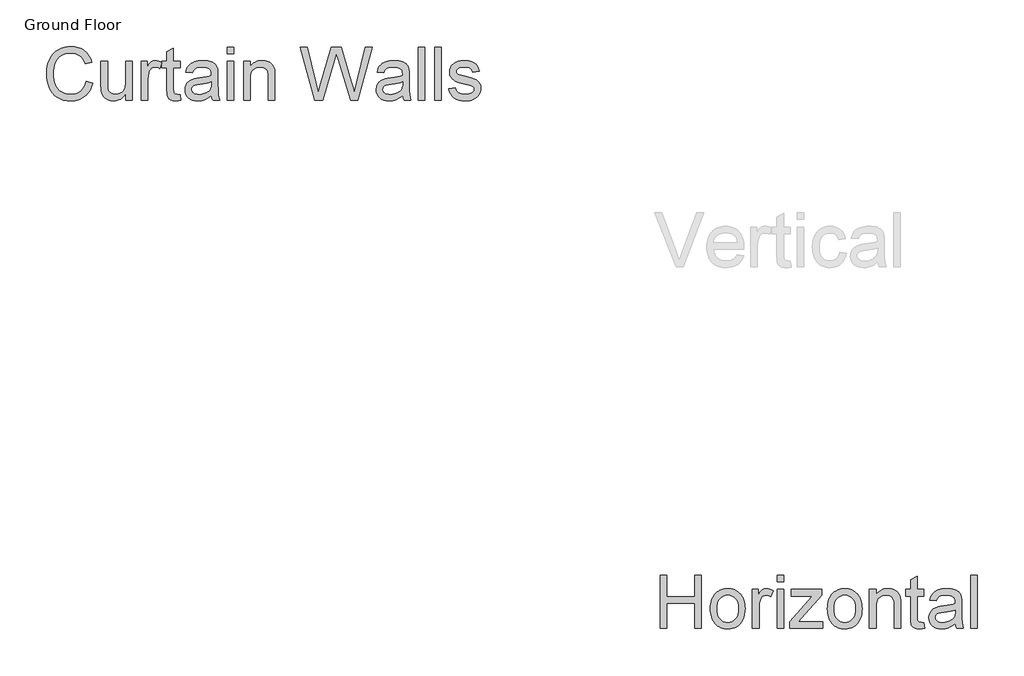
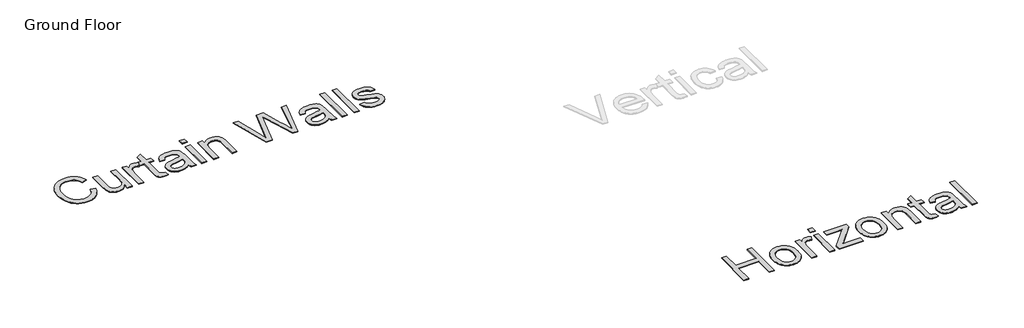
# One storey, part 3 of 6: 2 proxies.
"""IFC4 building model written with IfcOpenShell, lengths in millimetres."""

import ifcopenshell
import ifcopenshell.guid

model = None  # the IFC model being written
_history = None  # IfcOwnerHistory: only IFC2X3 demands one
_inside = {}  # id of a spatial element -> (the spatial element, [elements in it])
_under = {}  # id of a project, library or spatial element -> (it, [spatial elements below it])
_declared = {}  # id of a project -> (the project, [libraries it declares])
_typed = {}  # id of a type object -> (the type object, [elements of that type])
_made_of = {}  # id of a material, layer set ... -> (it, [elements and type objects made of it])


def new_model(schema):
    """Start an empty IFC model of exactly this schema.

    Asked for "IFC4X3", IfcOpenShell would pick the latest addendum, in which some entities
    have other attributes; the version numbers below select the first issue.
    IFC2X3 requires an IfcOwnerHistory on every rooted entity: one is made here for all.
    """
    global model, _history
    if schema == "IFC4X3":
        model = ifcopenshell.file(schema_version=(4, 3, 0, 0))
    else:
        model = ifcopenshell.file(schema=schema)
    _inside.clear()
    _under.clear()
    _declared.clear()
    _typed.clear()
    _made_of.clear()
    _history = None
    if model.schema == "IFC2X3":
        org = make("IfcOrganization", Name="unknown")
        user = make(
            "IfcPersonAndOrganization",
            ThePerson=make("IfcPerson", FamilyName="unknown"),
            TheOrganization=org,
        )
        app = make(
            "IfcApplication",
            ApplicationDeveloper=org,
            Version="unknown",
            ApplicationFullName="unknown",
            ApplicationIdentifier="unknown",
        )
        _history = make(
            "IfcOwnerHistory",
            OwningUser=user,
            OwningApplication=app,
            ChangeAction="ADDED",
            CreationDate=0,
        )
    return model


def make(cls, **values):
    """One entity of the class cls with the attributes given. An attribute that is None is left unset."""
    return model.create_entity(
        cls, **{name: value for name, value in values.items() if value is not None}
    )


def rooted(cls, **values):
    """An entity with a GlobalId (a new one), such as an element, a storey or a relation."""
    return make(cls, GlobalId=ifcopenshell.guid.new(), OwnerHistory=_history, **values)


def si_unit(unit_type, name, prefix=None):
    """IfcSIUnit, for example si_unit("LENGTHUNIT", "METRE", prefix="MILLI")."""
    return make("IfcSIUnit", UnitType=unit_type, Prefix=prefix, Name=name)


def assignment(units):
    """IfcUnitAssignment: the units of a project."""
    return None if units is None else make("IfcUnitAssignment", Units=units)


def point(xyz):
    """IfcCartesianPoint."""
    return None if xyz is None else make("IfcCartesianPoint", Coordinates=xyz)


def direction(xyz):
    """IfcDirection."""
    return None if xyz is None else make("IfcDirection", DirectionRatios=xyz)


def frame(location, z_axis=None, x_axis=None):
    """IfcAxis2Placement3D, a coordinate frame: its origin and axes. An axis left out is left unset."""
    return make(
        "IfcAxis2Placement3D",
        Location=point(location),
        Axis=direction(z_axis),
        RefDirection=direction(x_axis),
    )


def origin():
    """The frame at (0, 0, 0) with its axes left unset."""
    return frame((0.0, 0.0, 0.0))


def origin_with_axes():
    """The frame at (0, 0, 0) with the z axis (0, 0, 1) and the x axis (1, 0, 0) written out."""
    return frame((0.0, 0.0, 0.0), z_axis=(0.0, 0.0, 1.0), x_axis=(1.0, 0.0, 0.0))


def place(relative_to, where):
    """IfcLocalPlacement: puts the frame where relative to a parent placement (None: the world)."""
    return make(
        "IfcLocalPlacement", PlacementRelTo=relative_to, RelativePlacement=where
    )


def context(
    kind, dimensions, precision=None, world=None, true_north=None, identifier=None
):
    """IfcGeometricRepresentationContext, for example the 3D "Model" context."""
    return make(
        "IfcGeometricRepresentationContext",
        ContextIdentifier=identifier,
        ContextType=kind,
        CoordinateSpaceDimension=dimensions,
        Precision=precision,
        WorldCoordinateSystem=world,
        TrueNorth=true_north,
    )


def project(units=None, contexts=None):
    """IfcProject with its units and contexts."""
    return rooted(
        "IfcProject",
        Name="project",
        RepresentationContexts=contexts,
        UnitsInContext=assignment(units),
    )


def spatial(cls, under=None, at=None, **own):
    """A site, building, storey or space (cls), placed at a placement, below another one or the project."""
    s = rooted(cls, ObjectPlacement=at, **own)
    if under is not None:
        _under.setdefault(under.id(), (under, []))[1].append(s)
    return s


def polyline(points):
    """IfcPolyline through the points."""
    return make("IfcPolyline", Points=[point(p) for p in points])


def outline(outer, holes=None, kind="AREA"):
    """IfcArbitraryClosedProfileDef: a profile drawn as a closed curve; with holes, ...WithVoids."""
    if holes is None:
        return make("IfcArbitraryClosedProfileDef", ProfileType=kind, OuterCurve=outer)
    return make(
        "IfcArbitraryProfileDefWithVoids",
        ProfileType=kind,
        OuterCurve=outer,
        InnerCurves=holes,
    )


def extrude(swept, where, along, depth):
    """IfcExtrudedAreaSolid: the profile swept, set in the frame where, extruded along a direction by depth."""
    return make(
        "IfcExtrudedAreaSolid",
        SweptArea=swept,
        Position=where,
        ExtrudedDirection=direction(along),
        Depth=depth,
    )


def shape(context_of_items, identifier, shape_type, items):
    """IfcShapeRepresentation: the items that make up one representation, for example the "Body"."""
    return make(
        "IfcShapeRepresentation",
        ContextOfItems=context_of_items,
        RepresentationIdentifier=identifier,
        RepresentationType=shape_type,
        Items=items,
    )


def made_of(thing, what):
    """Note that an element or type object is made of a material, layer set ...; save() writes the relation."""
    if what is not None:
        _made_of.setdefault(what.id(), (what, []))[1].append(thing)
    return thing


def element(
    cls,
    number,
    at=None,
    inside=None,
    cuts=None,
    type_object=None,
    material=None,
    context=None,
    identifier="Body",
    shape_type=None,
    held_by="IfcProductDefinitionShape",
    body=None,
    shapes=None,
    **own,
):
    """One element of the class cls, such as IfcWall. Its Tag is "e" and its number.

    at: its placement. inside: the storey or other place that contains it. cuts: it is an
    opening in that element (IfcRelVoidsElement). A single representation is given by context,
    identifier, shape_type and body (its items); several are given by shapes. held_by: the class
    of the entity that holds the representations. save() writes the other relations.
    """
    e = rooted(cls, Tag="e%d" % number, ObjectPlacement=at, **own)
    if body is not None:
        shapes = [shape(context, identifier, shape_type, body)]
    if shapes is not None:
        e.Representation = make(held_by, Representations=shapes)
    if inside is not None:
        _inside.setdefault(inside.id(), (inside, []))[1].append(e)
    if cuts is not None:
        rooted(
            "IfcRelVoidsElement", RelatingBuildingElement=cuts, RelatedOpeningElement=e
        )
    if type_object is not None:
        _typed.setdefault(type_object.id(), (type_object, []))[1].append(e)
    return made_of(e, material)


def aggregate(whole, parts):
    """IfcRelAggregates: a whole, such as a stair, and the parts it consists of."""
    return rooted("IfcRelAggregates", RelatingObject=whole, RelatedObjects=parts)


def save(model, path):
    """Write the relations noted so far, then the file.

    IfcRelAggregates (storeys below a building ...), IfcRelContainedInSpatialStructure (elements
    in a storey), IfcRelDefinesByType, IfcRelAssociatesMaterial and IfcRelDeclares: one each for
    every whole, place, type object, material and project.
    """
    for whole, parts in _under.values():
        aggregate(whole, parts)
    for where, things in _inside.values():
        rooted(
            "IfcRelContainedInSpatialStructure",
            RelatedElements=things,
            RelatingStructure=where,
        )
    for kind, things in _typed.values():
        rooted("IfcRelDefinesByType", RelatedObjects=things, RelatingType=kind)
    for what, things in _made_of.values():
        rooted("IfcRelAssociatesMaterial", RelatedObjects=things, RelatingMaterial=what)
    for by, libraries in _declared.values():
        rooted("IfcRelDeclares", RelatingContext=by, RelatedDefinitions=libraries)
    model.write(path)


model = new_model("IFC4")

# Units and contexts
model_context = context("Model", 3, world=origin())
ifc_project = project(units=[si_unit("LENGTHUNIT", "METRE", prefix="MILLI")], contexts=[model_context])

# Site, building, storey
site = spatial("IfcSite", under=ifc_project)
building = spatial("IfcBuilding", under=site)
storey = spatial("IfcBuildingStorey", under=building, Name="Ground Floor", Elevation=0.0)

# Proxies
placement = place(None, origin())
element("IfcBuildingElementProxy", 1, Name="1200mm Arial", ObjectType="1200mm Arial", at=placement, inside=storey, context=model_context, shape_type="SweptSolid", body=[
    extrude(outline(polyline([(-30178.9270845, 12481.7519145), (-30032.0179936, 12443.8769145), (-30061.0877734, 12352.5160303), (-30079.2406942, 12311.1597403), (-30099.8056356, 12272.6862185), (-30122.7825976, 12237.0954647), (-30148.1715802, 12204.3874791), (-30175.9725834, 12174.5622616), (-30206.1856072, 12147.6198122), (-30238.48337, 12123.7125635), (-30272.5385902, 12102.9929479), (-30308.3512677, 12085.4609654), (-30345.9214027, 12071.1166162), (-30385.248995, 12059.9599001), (-30426.3340447, 12051.9908172), (-30469.1765518, 12047.2093674), (-30513.7765163, 12045.6155509), (-30603.3620099, 12050.439592), (-30684.1781498, 12064.9117156), (-30756.2249361, 12089.0319216), (-30819.5023686, 12122.8002099), (-30874.8802095, 12165.71445), (-30923.2282209, 12217.2725111), (-30964.5464027, 12277.4743932), (-30998.8347549, 12346.3200963), (-31025.7615128, 12420.8327028), (-31044.9949112, 12498.0352952), (-31056.5349503, 12577.9278733), (-31060.3816299, 12660.5104372), (-31056.0328196, 12749.1185693), (-31042.9863885, 12831.8804656), (-31021.2423366, 12908.7961261), (-30990.800664, 12979.8655509), (-30952.3428338, 13043.9141126), (-30906.5503089, 13099.7671844), (-30853.4230895, 13147.424766), (-30792.9611754, 13186.8868577), (-30727.2179226, 13217.8306609), (-30658.2466868, 13239.9333776), (-30586.047468, 13253.1950075), (-30510.6202663, 13257.6155509), (-30426.5940767, 13251.8948477), (-30349.5439169, 13234.7327384), (-30313.6348482, 13221.8611563), (-30279.4697869, 13206.1292227), (-30247.0487331, 13187.5369376), (-30216.3716868, 13166.0843009), (-30187.6986798, 13142.0358278), (-30161.2897443, 13115.6560338), (-30137.1448801, 13086.9449187), (-30115.2640873, 13055.9024827), (-30078.2947159, 12986.8236474), (-30050.3816299, 12908.4195281), (-30197.2907209, 12873.4138463), (-30220.4245987, 12931.1857746), (-30248.2211186, 12980.5470139), (-30280.6802805, 13021.4975643), (-30317.8020845, 13054.0374259), (-30359.8017294, 13078.8301283), (-30406.894414, 13096.5392014), (-30459.0801385, 13107.1646453), (-30516.3589027, 13110.7064599), (-30582.2635547, 13106.7790807), (-30642.5371697, 13094.9969429), (-30697.1797478, 13075.3600466), (-30746.191289, 13047.8683918), (-30788.9530966, 13013.7593719), (-30824.8464737, 12974.2703804), (-30853.8714204, 12929.4014173), (-30876.0279368, 12879.1524827), (-30892.4099503, 12825.8010977), (-30904.1113885, 12771.6247838), (-30911.1322514, 12716.6235409), (-30913.472539, 12660.797369), (-30910.7018537, 12590.6425395), (-30902.3897976, 12525.078619), (-30888.5363707, 12464.1056077), (-30869.1415731, 12407.7235054), (-30843.8915731, 12357.0531396), (-30812.472539, 12313.2153378), (-30774.8844709, 12276.2100999), (-30731.1273686, 12246.0374259), (-30683.326321, 12222.6255828), (-30633.6064169, 12205.9028378), (-30581.9676562, 12195.8691908), (-30528.410039, 12192.5246418), (-30464.5408096, 12197.0796844), (-30405.7825532, 12210.7448122), (-30352.1352699, 12233.5200253), (-30303.5989595, 12265.4053236), (-30261.3213494, 12306.2572412), (-30226.4501669, 12355.9323122), (-30198.9854119, 12414.4305366), (-30178.9270845, 12481.7519145)])), origin_with_axes(), (0.0, 0.0, 1.0), 20.0),
    extrude(outline(polyline([(-29297.472539, 12063.9791872), (-29297.472539, 12212.3229372), (-29322.9556711, 12173.2508935), (-29350.6266584, 12139.3884557), (-29380.4855007, 12110.7356236), (-29412.5321981, 12087.2923974), (-29446.7667507, 12069.0587771), (-29483.1891584, 12056.0347625), (-29521.7994211, 12048.2203538), (-29562.597539, 12045.6155509), (-29598.9930469, 12047.4447412), (-29634.1511612, 12052.9323122), (-29668.0718821, 12062.0782639), (-29700.7552095, 12074.8825963), (-29730.7575177, 12090.4486474), (-29756.6351811, 12107.8797554), (-29778.3881996, 12127.1759202), (-29796.0165731, 12148.3371418), (-29810.4259304, 12171.6682852), (-29822.5218998, 12197.4742156), (-29839.7736754, 12256.5104372), (-29846.2296413, 12312.1752099), (-29848.3816299, 12393.0899827), (-29848.3816299, 12927.0700963), (-29701.472539, 12927.0700963), (-29701.472539, 12462.2405509), (-29699.2488174, 12369.2746418), (-29692.5776527, 12312.4621418), (-29683.7813991, 12285.9837149), (-29671.1653657, 12262.5001389), (-29654.7295525, 12242.0114138), (-29634.4739595, 12224.5175395), (-29611.0083167, 12210.5206467), (-29584.9423544, 12200.5228662), (-29556.2760724, 12194.5241979), (-29525.0094709, 12192.5246418), (-29492.8103409, 12194.569031), (-29461.6334055, 12200.7021986), (-29431.4786647, 12210.9241446), (-29402.3461186, 12225.234869), (-29375.813892, 12243.0694749), (-29353.4601101, 12263.8630651), (-29335.2847727, 12287.6156396), (-29321.2878799, 12314.3271986), (-29310.8686683, 12345.7013996), (-29303.4263743, 12383.4419003), (-29298.9609978, 12427.5487007), (-29297.472539, 12478.0218009), (-29297.472539, 12927.0700963), (-29150.5634481, 12927.0700963), (-29150.5634481, 12063.9791872), (-29297.472539, 12063.9791872)])), origin_with_axes(), (0.0, 0.0, 1.0), 20.0),
    extrude(outline(polyline([(-28948.5634481, 12063.9791872), (-28948.5634481, 12927.0700963), (-28820.0179936, 12927.0700963), (-28820.0179936, 12799.3854372), (-28795.8081214, 12840.2014884), (-28772.5307777, 12873.4138463), (-28750.1859623, 12899.0225111), (-28728.7736754, 12917.0274827), (-28707.325522, 12929.455217), (-28684.8731072, 12938.3321702), (-28661.4164311, 12943.658342), (-28636.9554936, 12945.4337327), (-28600.5151527, 12942.600281), (-28563.7878799, 12934.0999259), (-28526.7736754, 12919.9326673), (-28489.472539, 12900.0985054), (-28538.5378799, 12768.3968009), (-28564.3617436, 12781.5777312), (-28590.1856072, 12790.9926815), (-28616.0094709, 12796.6416517), (-28641.8333345, 12798.5246418), (-28664.3485156, 12796.7133847), (-28685.6980362, 12791.2796134), (-28705.8818963, 12782.2233278), (-28724.9000959, 12769.5445281), (-28742.0353054, 12753.6556787), (-28756.5701953, 12734.969244), (-28768.5047656, 12713.4852241), (-28777.8390163, 12689.203619), (-28788.258228, 12649.1048974), (-28795.700522, 12607.141119), (-28801.6543572, 12517.6183918), (-28801.6543572, 12063.9791872), (-28948.5634481, 12063.9791872)])), origin_with_axes(), (0.0, 0.0, 1.0), 20.0),
    extrude(outline(polyline([(-28085.472539, 12186.4990736), (-28067.1089027, 12059.6752099), (-28125.2843288, 12049.1304656), (-28177.003789, 12045.6155509), (-28214.502191, 12047.1398761), (-28247.5172834, 12051.712852), (-28276.049066, 12059.3344784), (-28300.097539, 12070.0047554), (-28320.2903657, 12083.1498193), (-28337.2552095, 12098.1958065), (-28350.9920703, 12115.142717), (-28361.5009481, 12133.9905509), (-28369.2839737, 12159.2584841), (-28374.8432777, 12195.4656929), (-28379.2907209, 12300.6979372), (-28379.2907209, 12780.1610054), (-28489.472539, 12780.1610054), (-28489.472539, 12927.0700963), (-28379.2907209, 12927.0700963), (-28379.2907209, 13136.8172554), (-28232.3816299, 13223.1837327), (-28232.3816299, 12927.0700963), (-28085.472539, 12927.0700963), (-28085.472539, 12780.1610054), (-28232.3816299, 12780.1610054), (-28232.3816299, 12305.0019145), (-28230.4448402, 12256.6539031), (-28224.6344709, 12229.2519145), (-28214.4842578, 12214.0803946), (-28199.5279368, 12202.4237895), (-28178.3308487, 12194.9994287), (-28149.4583345, 12192.5246418), (-28085.472539, 12186.4990736)])), origin_with_axes(), (0.0, 0.0, 1.0), 20.0),
    extrude(outline(polyline([(-27387.6543572, 12174.1610054), (-27422.4896733, 12141.4687114), (-27457.8450532, 12113.9770565), (-27493.7204971, 12091.6860409), (-27530.1160049, 12074.5956645), (-27567.4440412, 12061.9168648), (-27606.1170703, 12052.8605793), (-27646.1350923, 12047.426808), (-27687.4981072, 12045.6155509), (-27752.9095951, 12049.9733278), (-27810.2690589, 12063.0466588), (-27859.5764986, 12084.8355437), (-27900.831914, 12115.3399827), (-27933.407642, 12152.6231858), (-27956.6760192, 12194.7483634), (-27970.6370454, 12241.7155153), (-27975.2907209, 12293.5246418), (-27973.5332635, 12324.6746773), (-27968.2608913, 12354.4259202), (-27959.4736044, 12382.7783705), (-27947.1714027, 12409.7320281), (-27932.0088494, 12434.6950963), (-27914.6405078, 12457.0757781), (-27895.0663778, 12476.8740736), (-27873.2864595, 12494.0899827), (-27824.6873828, 12522.0658349), (-27770.4214027, 12542.2945281), (-27717.5542152, 12553.556602), (-27643.3106072, 12564.3882781), (-27493.1018004, 12587.6297554), (-27435.1057067, 12600.7568861), (-27388.5151527, 12614.8882781), (-27387.6543572, 12647.5985054), (-27390.1829439, 12683.2139173), (-27397.7687038, 12713.1624259), (-27410.4116371, 12737.444031), (-27428.1117436, 12756.0587327), (-27458.7058487, 12774.6375679), (-27495.9711186, 12787.9081645), (-27539.9075532, 12795.8705224), (-27590.5151527, 12798.5246418), (-27637.5719709, 12796.7582178), (-27678.0293572, 12791.4589457), (-27711.8873118, 12782.6268257), (-27739.1458345, 12770.2618577), (-27761.5444496, 12753.3956467), (-27780.8226811, 12731.059798), (-27796.9805291, 12703.2543115), (-27810.0179936, 12669.9791872), (-27956.9270845, 12688.3428236), (-27945.7457102, 12730.6652668), (-27931.4260192, 12768.6837327), (-27913.9680113, 12802.3982213), (-27893.3716868, 12831.8087327), (-27868.7493501, 12857.5070636), (-27839.2133061, 12880.0850111), (-27804.7635547, 12899.542575), (-27765.4000959, 12915.8797554), (-27721.9209588, 12928.8096205), (-27675.1241726, 12938.0452384), (-27625.0097372, 12943.5866091), (-27571.5776527, 12945.4337327), (-27519.3470951, 12943.801808), (-27472.2633771, 12938.9060338), (-27430.3264986, 12930.7464102), (-27393.5364595, 12919.3229372), (-27361.5883949, 12905.4336439), (-27334.1774396, 12889.8765594), (-27311.3035937, 12872.6516837), (-27292.9668572, 12853.7590168), (-27278.1002024, 12832.7322945), (-27265.6366015, 12809.1052526), (-27247.9185618, 12754.0502099), (-27242.5385902, 12703.2632781), (-27240.7452663, 12625.5047554), (-27240.7452663, 12442.7291872), (-27238.8802095, 12283.5178946), (-27233.285039, 12187.5033349), (-27222.238164, 12124.4142014), (-27204.0179936, 12063.9791872), (-27350.9270845, 12063.9791872), (-27363.9824822, 12088.5118577), (-27374.4554936, 12115.0530509), (-27387.6543572, 12174.1610054)]), holes=[polyline([(-27387.6543572, 12467.9791872), (-27432.0570561, 12455.264521), (-27486.3589027, 12443.5182497), (-27624.660039, 12422.9308918), (-27700.8763032, 12411.6688179), (-27751.0535049, 12399.1155509), (-27783.9430646, 12382.8321702), (-27808.2964027, 12360.3797554), (-27823.3603231, 12333.4798974), (-27828.3816299, 12303.8541872), (-27825.6468111, 12281.0251744), (-27817.4423544, 12260.1688179), (-27803.7682599, 12241.2851176), (-27784.6245277, 12224.3740736), (-27760.19049, 12210.4399472), (-27730.6454794, 12200.4869997), (-27695.9894957, 12194.5152312), (-27656.222539, 12192.5246418), (-27615.6216868, 12194.7214635), (-27577.316289, 12201.3119287), (-27541.3063459, 12212.2960374), (-27507.5918572, 12227.6737895), (-27477.1770845, 12246.1719251), (-27451.066289, 12266.5171844), (-27429.2594709, 12288.7095672), (-27411.7566299, 12312.7490736), (-27401.5884836, 12334.2689599), (-27394.325522, 12360.3797554), (-27389.967745, 12391.0814599), (-27388.5151527, 12426.3740736), (-27387.6543572, 12467.9791872)])]), origin_with_axes(), (0.0, 0.0, 1.0), 20.0),
    extrude(outline(polyline([(-27038.7452663, 13092.3428236), (-27038.7452663, 13239.2519145), (-26891.8361754, 13239.2519145), (-26891.8361754, 13092.3428236), (-27038.7452663, 13092.3428236)])), origin_with_axes(), (0.0, 0.0, 1.0), 20.0),
    extrude(outline(polyline([(-27038.7452663, 12063.9791872), (-27038.7452663, 12927.0700963), (-26891.8361754, 12927.0700963), (-26891.8361754, 12063.9791872), (-27038.7452663, 12063.9791872)])), origin_with_axes(), (0.0, 0.0, 1.0), 20.0),
    extrude(outline(polyline([(-26671.472539, 12063.9791872), (-26671.472539, 12927.0700963), (-26524.5634481, 12927.0700963), (-26524.5634481, 12806.5587327), (-26500.3266761, 12839.1075608), (-26473.525451, 12867.3165452), (-26444.1597727, 12891.1856858), (-26412.2296413, 12910.7149827), (-26377.7350568, 12925.9044358), (-26340.6760192, 12936.7540452), (-26301.0525284, 12943.2638108), (-26258.8645845, 12945.4337327), (-26221.895213, 12943.6852419), (-26186.4501669, 12938.4397696), (-26152.529446, 12929.6973158), (-26120.1330504, 12917.4578804), (-26090.4894069, 12902.3760267), (-26064.8269424, 12885.1063179), (-26043.1456569, 12865.648754), (-26025.4455504, 12844.0033349), (-25998.7250248, 12794.256531), (-25981.4015163, 12735.9735054), (-25975.591147, 12680.2369997), (-25973.6543572, 12593.9422554), (-25973.6543572, 12063.9791872), (-26120.5634481, 12063.9791872), (-26120.5634481, 12574.1439599), (-26124.7956924, 12650.1091588), (-26130.0859978, 12679.8604017), (-26137.4924254, 12704.1240736), (-26147.5798721, 12724.558999), (-26160.9132351, 12742.8240026), (-26177.4925142, 12758.9190842), (-26197.3177095, 12772.844244), (-26219.7073579, 12784.079418), (-26243.9799964, 12792.1045423), (-26270.135625, 12796.9196169), (-26298.1742436, 12798.5246418), (-26342.7831747, 12794.9200608), (-26384.2179226, 12784.1063179), (-26422.4784872, 12766.0834131), (-26457.5648686, 12740.8513463), (-26473.2676607, 12724.8145477), (-26486.8767471, 12705.5407994), (-26498.392128, 12683.0301016), (-26507.8138032, 12657.2824543), (-26520.3760369, 12596.0763108), (-26524.5634481, 12521.922369), (-26524.5634481, 12063.9791872), (-26671.472539, 12063.9791872)])), origin_with_axes(), (0.0, 0.0, 1.0), 20.0),
    extrude(outline(polyline([(-25083.878789, 12063.9791872), (-25404.3816299, 13239.2519145), (-25252.8816299, 13239.2519145), (-25066.9498118, 12466.8314599), (-25009.5634481, 12228.391119), (-24948.160039, 12439.2860054), (-24715.1714027, 13239.2519145), (-24496.816289, 13239.2519145), (-24327.5265163, 12659.3627099), (-24288.8803871, 12551.8350111), (-24255.0044993, 12444.1638463), (-24225.898853, 12336.3492156), (-24201.5634481, 12228.391119), (-24145.8986754, 12459.9450963), (-23958.2452663, 13239.2519145), (-23806.7452663, 13239.2519145), (-24127.535039, 12063.9791872), (-24284.4867436, 12063.9791872), (-24566.253789, 12970.6837327), (-24605.5634481, 13097.2206645), (-24649.7509481, 12944.859869), (-24906.5549254, 12063.9791872), (-25083.878789, 12063.9791872)])), origin_with_axes(), (0.0, 0.0, 1.0), 20.0),
    extrude(outline(polyline([(-23127.2907209, 12174.1610054), (-23162.1260369, 12141.4687114), (-23197.4814169, 12113.9770565), (-23233.3568608, 12091.6860409), (-23269.7523686, 12074.5956645), (-23307.0804048, 12061.9168648), (-23345.7534339, 12052.8605793), (-23385.7714559, 12047.426808), (-23427.1344709, 12045.6155509), (-23492.5459588, 12049.9733278), (-23549.9054226, 12063.0466588), (-23599.2128622, 12084.8355437), (-23640.4682777, 12115.3399827), (-23673.0440057, 12152.6231858), (-23696.3123828, 12194.7483634), (-23710.2734091, 12241.7155153), (-23714.9270845, 12293.5246418), (-23713.1696271, 12324.6746773), (-23707.8972549, 12354.4259202), (-23699.109968, 12382.7783705), (-23686.8077663, 12409.7320281), (-23671.645213, 12434.6950963), (-23654.2768714, 12457.0757781), (-23634.7027415, 12476.8740736), (-23612.9228231, 12494.0899827), (-23564.3237464, 12522.0658349), (-23510.0577663, 12542.2945281), (-23457.1905788, 12553.556602), (-23382.9469709, 12564.3882781), (-23232.738164, 12587.6297554), (-23174.7420703, 12600.7568861), (-23128.1515163, 12614.8882781), (-23127.2907209, 12647.5985054), (-23129.8193075, 12683.2139173), (-23137.4050674, 12713.1624259), (-23150.0480007, 12737.444031), (-23167.7481072, 12756.0587327), (-23198.3422123, 12774.6375679), (-23235.6074822, 12787.9081645), (-23279.5439169, 12795.8705224), (-23330.1515163, 12798.5246418), (-23377.2083345, 12796.7582178), (-23417.6657209, 12791.4589457), (-23451.5236754, 12782.6268257), (-23478.7821981, 12770.2618577), (-23501.1808132, 12753.3956467), (-23520.4590447, 12731.059798), (-23536.6168927, 12703.2543115), (-23549.6543572, 12669.9791872), (-23696.5634481, 12688.3428236), (-23685.3820738, 12730.6652668), (-23671.0623828, 12768.6837327), (-23653.604375, 12802.3982213), (-23633.0080504, 12831.8087327), (-23608.3857138, 12857.5070636), (-23578.8496697, 12880.0850111), (-23544.3999183, 12899.542575), (-23505.0364595, 12915.8797554), (-23461.5573224, 12928.8096205), (-23414.7605362, 12938.0452384), (-23364.6461008, 12943.5866091), (-23311.2140163, 12945.4337327), (-23258.9834588, 12943.801808), (-23211.8997407, 12938.9060338), (-23169.9628622, 12930.7464102), (-23133.1728231, 12919.3229372), (-23101.2247585, 12905.4336439), (-23073.8138032, 12889.8765594), (-23050.9399574, 12872.6516837), (-23032.6032209, 12853.7590168), (-23017.736566, 12832.7322945), (-23005.2729652, 12809.1052526), (-22987.5549254, 12754.0502099), (-22982.1749538, 12703.2632781), (-22980.3816299, 12625.5047554), (-22980.3816299, 12442.7291872), (-22978.5165731, 12283.5178946), (-22972.9214027, 12187.5033349), (-22961.8745277, 12124.4142014), (-22943.6543572, 12063.9791872), (-23090.5634481, 12063.9791872), (-23103.6188459, 12088.5118577), (-23114.0918572, 12115.0530509), (-23127.2907209, 12174.1610054)]), holes=[polyline([(-23127.2907209, 12467.9791872), (-23171.6934197, 12455.264521), (-23225.9952663, 12443.5182497), (-23364.2964027, 12422.9308918), (-23440.5126669, 12411.6688179), (-23490.6898686, 12399.1155509), (-23523.5794282, 12382.8321702), (-23547.9327663, 12360.3797554), (-23562.9966868, 12333.4798974), (-23568.0179936, 12303.8541872), (-23565.2831747, 12281.0251744), (-23557.078718, 12260.1688179), (-23543.4046236, 12241.2851176), (-23524.2608913, 12224.3740736), (-23499.8268537, 12210.4399472), (-23470.281843, 12200.4869997), (-23435.6258594, 12194.5152312), (-23395.8589027, 12192.5246418), (-23355.2580504, 12194.7214635), (-23316.9526527, 12201.3119287), (-23280.9427095, 12212.2960374), (-23247.2282209, 12227.6737895), (-23216.8134481, 12246.1719251), (-23190.7026527, 12266.5171844), (-23168.8958345, 12288.7095672), (-23151.3929936, 12312.7490736), (-23141.2248473, 12334.2689599), (-23133.9618856, 12360.3797554), (-23129.6041086, 12391.0814599), (-23128.1515163, 12426.3740736), (-23127.2907209, 12467.9791872)])]), origin_with_axes(), (0.0, 0.0, 1.0), 20.0),
    extrude(outline(polyline([(-22778.3816299, 12063.9791872), (-22778.3816299, 13239.2519145), (-22631.472539, 13239.2519145), (-22631.472539, 12063.9791872), (-22778.3816299, 12063.9791872)])), origin_with_axes(), (0.0, 0.0, 1.0), 20.0),
    extrude(outline(polyline([(-22411.1089027, 12063.9791872), (-22411.1089027, 13239.2519145), (-22264.1998118, 13239.2519145), (-22264.1998118, 12063.9791872), (-22411.1089027, 12063.9791872)])), origin_with_axes(), (0.0, 0.0, 1.0), 20.0),
    extrude(outline(polyline([(-22098.9270845, 12321.0700963), (-21952.0179936, 12339.4337327), (-21943.1410405, 12305.9344429), (-21928.8482493, 12276.5956645), (-21909.13962, 12251.4173974), (-21884.0151527, 12230.3996418), (-21853.4031143, 12213.8293293), (-21817.231772, 12201.9933918), (-21775.5011257, 12194.8918293), (-21728.2111754, 12192.5246418), (-21680.9750248, 12194.6945636), (-21640.2665731, 12201.2043293), (-21606.0858203, 12212.0539386), (-21578.4327663, 12227.2433918), (-21557.0922123, 12245.3559628), (-21541.8489595, 12264.9749259), (-21532.7030078, 12286.100281), (-21529.6543572, 12308.7320281), (-21532.720941, 12328.5661901), (-21541.9206924, 12346.1766304), (-21557.2536115, 12361.5633491), (-21578.7196981, 12374.7263463), (-21633.7388743, 12393.3769145), (-21729.9327663, 12416.6183918), (-21864.0016584, 12455.3900537), (-21951.1571981, 12488.4948122), (-21981.0788068, 12505.0920246), (-22007.1447692, 12524.6123548), (-22029.3550852, 12547.055803), (-22047.7097549, 12572.422369), (-22062.0832457, 12599.9498903), (-22072.3500248, 12628.8762043), (-22078.5100923, 12659.2013108), (-22080.5634481, 12690.9252099), (-22078.9135902, 12719.9322234), (-22073.9640163, 12747.8453094), (-22065.7147265, 12774.6644678), (-22054.1657209, 12800.3896986), (-22039.7653302, 12824.5009379), (-22022.9618856, 12846.4781219), (-22003.7553871, 12866.3212504), (-21982.1458345, 12884.0303236), (-21941.5808487, 12907.6663321), (-21888.7495277, 12927.500494), (-21827.6689169, 12940.950423), (-21762.3560618, 12945.4337327), (-21712.9858558, 12943.6314422), (-21666.7360334, 12938.2245707), (-21623.6065944, 12929.2131183), (-21583.597539, 12916.5970849), (-21547.6593288, 12900.9055011), (-21516.7424254, 12882.6673974), (-21490.8468288, 12861.8827739), (-21469.972539, 12838.5516304), (-21453.0435618, 12811.8580047), (-21438.9839027, 12780.9859344), (-21427.7935618, 12745.9354195), (-21419.472539, 12706.7064599), (-21566.3816299, 12688.3428236), (-21573.3845596, 12712.8844607), (-21584.9245987, 12734.5747128), (-21601.0017471, 12753.41358), (-21621.6160049, 12769.4010622), (-21646.8570383, 12782.1426283), (-21676.8145135, 12791.2437469), (-21711.4884304, 12796.704418), (-21750.878789, 12798.5246418), (-21796.5726811, 12796.7851176), (-21835.2367436, 12791.5665452), (-21866.8709765, 12782.8689244), (-21891.4753799, 12770.6922554), (-21909.9286825, 12756.2021986), (-21923.1096129, 12740.5644145), (-21931.0181711, 12723.7789031), (-21933.6543572, 12705.8456645), (-21929.278647, 12683.2497838), (-21916.1515163, 12663.0928236), (-21893.6991015, 12645.087852), (-21861.347539, 12630.6695281), (-21734.8106072, 12599.3939599), (-21605.009826, 12561.0168293), (-21519.1813459, 12530.2433918), (-21488.981772, 12515.233271), (-21462.2253799, 12497.1744997), (-21438.9121697, 12476.0670778), (-21419.0421413, 12451.9110054), (-21403.1622585, 12424.6704159), (-21391.8194851, 12394.3094429), (-21385.013821, 12360.8280864), (-21382.7452663, 12324.2263463), (-21385.4083522, 12287.4632071), (-21393.3976101, 12251.7760622), (-21406.7130397, 12217.1649116), (-21425.3546413, 12183.6297554), (-21449.0175497, 12152.5066197), (-21477.3968998, 12125.131531), (-21510.4926917, 12101.5044891), (-21548.3049254, 12081.625494), (-21589.8024396, 12065.8711439), (-21633.9540731, 12054.6180366), (-21680.759826, 12047.8661723), (-21730.2196981, 12045.6155509), (-21809.2873473, 12049.9553946), (-21878.3482493, 12062.9749259), (-21937.4024041, 12084.6741446), (-21986.4498118, 12115.0530509), (-22026.5126669, 12153.9681787), (-22058.613164, 12201.2760622), (-22082.7513032, 12256.9767014), (-22098.9270845, 12321.0700963)])), origin_with_axes(), (0.0, 0.0, 1.0), 20.0),
])
element("IfcBuildingElementProxy", 2, Name="1200mm Arial", ObjectType="1200mm Arial", at=placement, inside=storey, context=model_context, shape_type="SweptSolid", body=[
    extrude(outline(polyline([(-17389.6614443, 299.4047843), (-17389.6614443, 1474.6775116), (-17242.7523534, 1474.6775116), (-17242.7523534, 997.2229661), (-16618.3887171, 997.2229661), (-16618.3887171, 1474.6775116), (-16471.4796262, 1474.6775116), (-16471.4796262, 299.4047843), (-16618.3887171, 299.4047843), (-16618.3887171, 850.3138752), (-17242.7523534, 850.3138752), (-17242.7523534, 299.4047843), (-17389.6614443, 299.4047843)])), origin_with_axes(), (0.0, 0.0, 1.0), 20.0),
    extrude(outline(polyline([(-16269.4796262, 730.9502389), (-16267.49352, 788.7714835), (-16261.5352014, 842.7281153), (-16251.6046706, 892.8201341), (-16237.7019273, 939.04754), (-16219.8269717, 981.410333), (-16197.9798037, 1019.908513), (-16172.1604234, 1054.5420801), (-16142.3688307, 1085.3110343), (-16115.1013414, 1107.7051661), (-16086.3812597, 1127.1134136), (-16056.2085857, 1143.5357769), (-16024.5833193, 1156.9722559), (-15991.5054607, 1167.4228507), (-15956.9750097, 1174.8875613), (-15883.5563307, 1180.8593298), (-15842.0610582, 1179.0413477), (-15802.5070587, 1173.5874015), (-15764.8943323, 1164.4974912), (-15729.222879, 1151.7716167), (-15695.4926988, 1135.4097781), (-15663.7037916, 1115.4119754), (-15633.8561576, 1091.7782085), (-15605.9497966, 1064.5084775), (-15580.697555, 1034.0331801), (-15558.8122789, 1000.782714), (-15540.2939683, 964.7570792), (-15525.1426233, 925.9562758), (-15513.3582439, 884.3803037), (-15504.94083, 840.0291629), (-15499.8903817, 792.9028534), (-15498.2068989, 743.0013752), (-15501.1838165, 664.3641238), (-15510.1145693, 594.5858923), (-15524.9991574, 533.6666806), (-15545.8375807, 481.6064889), (-15572.3698073, 436.638893), (-15604.3358051, 396.997469), (-15641.7355743, 362.6822168), (-15684.5691148, 333.6931366), (-15731.1686354, 310.6578916), (-15779.8663449, 294.2041451), (-15830.6622433, 284.3318972), (-15883.5563307, 281.041148), (-15925.7061665, 282.8524051), (-15965.7891965, 288.2861764), (-16003.8054207, 297.3424619), (-16039.7548392, 310.0212616), (-16073.637452, 326.3225755), (-16105.453259, 346.2464036), (-16135.2022602, 369.792746), (-16162.8844557, 396.9616025), (-16187.8676988, 427.5377744), (-16209.5198428, 461.3060627), (-16227.8408877, 498.2664676), (-16242.8308335, 538.4189889), (-16254.4896803, 581.7636266), (-16262.817428, 628.3003809), (-16267.8140766, 678.0292516), (-16269.4796262, 730.9502389)]), holes=[polyline([(-16122.5705353, 731.2371707), (-16118.3203577, 659.979447), (-16105.569825, 598.2801394), (-16084.3189372, 546.1392481), (-16054.5676943, 503.556773), (-16018.3784188, 470.4789143), (-15977.813433, 446.8518724), (-15932.872737, 432.6756472), (-15883.5563307, 427.9502389), (-15834.4909898, 432.7025471), (-15789.7296262, 446.9594718), (-15749.2722398, 470.721013), (-15713.1188307, 503.9871707), (-15683.3675878, 546.9910769), (-15662.1167, 599.9658639), (-15649.3661674, 662.9115315), (-15645.1159898, 735.8280798), (-15649.3930672, 804.8262154), (-15662.2242995, 864.9115315), (-15683.6096865, 916.0840279), (-15713.5492284, 958.3437048), (-15749.8371368, 991.4215634), (-15790.2676233, 1015.0486053), (-15834.840688, 1029.2248305), (-15883.5563307, 1033.9502389), (-15932.872737, 1029.2427637), (-15977.813433, 1015.1203383), (-16018.3784188, 991.5829626), (-16054.5676943, 958.6306366), (-16084.3189372, 916.1736941), (-16105.569825, 864.122469), (-16118.3203577, 802.4769612), (-16122.5705353, 731.2371707)])]), origin_with_axes(), (0.0, 0.0, 1.0), 20.0),
    extrude(outline(polyline([(-15332.9341716, 299.4047843), (-15332.9341716, 1162.4956934), (-15204.3887171, 1162.4956934), (-15204.3887171, 1034.8110343), (-15180.1788449, 1075.6270855), (-15156.9015012, 1108.8394434), (-15134.5566858, 1134.4481082), (-15113.1443989, 1152.4530798), (-15091.6962455, 1164.8808141), (-15069.2438307, 1173.7577673), (-15045.7871546, 1179.0839391), (-15021.3262171, 1180.8593298), (-14984.8858762, 1178.0258781), (-14948.1586034, 1169.525523), (-14911.1443989, 1155.3582644), (-14873.8432625, 1135.5241025), (-14922.9086034, 1003.822398), (-14948.7324671, 1017.0033284), (-14974.5563307, 1026.4182786), (-15000.3801943, 1032.0672488), (-15026.204058, 1033.9502389), (-15048.7192391, 1032.1389818), (-15070.0687597, 1026.7052105), (-15090.2526198, 1017.6489249), (-15109.2708193, 1004.9701252), (-15126.4060289, 989.0812758), (-15140.9409188, 970.3948411), (-15152.8754891, 948.9108212), (-15162.2097398, 924.6292161), (-15172.6289514, 884.5304945), (-15180.0712455, 842.5667161), (-15186.0250807, 753.0439889), (-15186.0250807, 299.4047843), (-15332.9341716, 299.4047843)])), origin_with_axes(), (0.0, 0.0, 1.0), 20.0),
    extrude(outline(polyline([(-14782.0250807, 299.4047843), (-14782.0250807, 1162.4956934), (-14635.1159898, 1162.4956934), (-14635.1159898, 299.4047843), (-14782.0250807, 299.4047843)])), origin_with_axes(), (0.0, 0.0, 1.0), 20.0),
    extrude(outline(polyline([(-14782.0250807, 1327.7684207), (-14782.0250807, 1474.6775116), (-14635.1159898, 1474.6775116), (-14635.1159898, 1327.7684207), (-14782.0250807, 1327.7684207)])), origin_with_axes(), (0.0, 0.0, 1.0), 20.0),
    extrude(outline(polyline([(-14506.5705353, 299.4047843), (-14506.5705353, 437.7059207), (-13999.5620125, 1015.5866025), (-14149.6273534, 1015.5866025), (-14469.8432625, 1015.5866025), (-14469.8432625, 1162.4956934), (-13790.3887171, 1162.4956934), (-13790.3887171, 1037.6803525), (-14240.0108762, 524.9331934), (-14308.8745125, 446.3138752), (-14139.0108762, 446.3138752), (-13772.0250807, 446.3138752), (-13772.0250807, 299.4047843), (-14506.5705353, 299.4047843)])), origin_with_axes(), (0.0, 0.0, 1.0), 20.0),
    extrude(outline(polyline([(-13661.8432625, 730.9502389), (-13659.8571563, 788.7714835), (-13653.8988378, 842.7281153), (-13643.9683069, 892.8201341), (-13630.0655637, 939.04754), (-13612.1906081, 981.410333), (-13590.3434401, 1019.908513), (-13564.5240598, 1054.5420801), (-13534.7324671, 1085.3110343), (-13507.4649777, 1107.7051661), (-13478.744896, 1127.1134136), (-13448.572222, 1143.5357769), (-13416.9469557, 1156.9722559), (-13383.869097, 1167.4228507), (-13349.338646, 1174.8875613), (-13275.9199671, 1180.8593298), (-13234.4246945, 1179.0413477), (-13194.8706951, 1173.5874015), (-13157.2579687, 1164.4974912), (-13121.5865154, 1151.7716167), (-13087.8563351, 1135.4097781), (-13056.067428, 1115.4119754), (-13026.219794, 1091.7782085), (-12998.313433, 1064.5084775), (-12973.0611913, 1034.0331801), (-12951.1759152, 1000.782714), (-12932.6576047, 964.7570792), (-12917.5062597, 925.9562758), (-12905.7218802, 884.3803037), (-12897.3044664, 840.0291629), (-12892.254018, 792.9028534), (-12890.5705353, 743.0013752), (-12893.5474529, 664.3641238), (-12902.4782057, 594.5858923), (-12917.3627938, 533.6666806), (-12938.2012171, 481.6064889), (-12964.7334436, 436.638893), (-12996.6994415, 396.997469), (-13034.0992107, 362.6822168), (-13076.9327512, 333.6931366), (-13123.5322718, 310.6578916), (-13172.2299813, 294.2041451), (-13223.0258797, 284.3318972), (-13275.9199671, 281.041148), (-13318.0698028, 282.8524051), (-13358.1528328, 288.2861764), (-13396.1690571, 297.3424619), (-13432.1184756, 310.0212616), (-13466.0010883, 326.3225755), (-13497.8168953, 346.2464036), (-13527.5658966, 369.792746), (-13555.2480921, 396.9616025), (-13580.2313351, 427.5377744), (-13601.8834791, 461.3060627), (-13620.2045241, 498.2664676), (-13635.1944699, 538.4189889), (-13646.8533167, 581.7636266), (-13655.1810644, 628.3003809), (-13660.177713, 678.0292516), (-13661.8432625, 730.9502389)]), holes=[polyline([(-13514.9341716, 731.2371707), (-13510.6839941, 659.979447), (-13497.9334614, 598.2801394), (-13476.6825736, 546.1392481), (-13446.9313307, 503.556773), (-13410.7420551, 470.4789143), (-13370.1770693, 446.8518724), (-13325.2363733, 432.6756472), (-13275.9199671, 427.9502389), (-13226.8546262, 432.7025471), (-13182.0932625, 446.9594718), (-13141.6358762, 470.721013), (-13105.4824671, 503.9871707), (-13075.7312242, 546.9910769), (-13054.4803364, 599.9658639), (-13041.7298037, 662.9115315), (-13037.4796262, 735.8280798), (-13041.7567036, 804.8262154), (-13054.5879358, 864.9115315), (-13075.9733229, 916.0840279), (-13105.9128648, 958.3437048), (-13142.2007732, 991.4215634), (-13182.6312597, 1015.0486053), (-13227.2043243, 1029.2248305), (-13275.9199671, 1033.9502389), (-13325.2363733, 1029.2427637), (-13370.1770693, 1015.1203383), (-13410.7420551, 991.5829626), (-13446.9313307, 958.6306366), (-13476.6825736, 916.1736941), (-13497.9334614, 864.122469), (-13510.6839941, 802.4769612), (-13514.9341716, 731.2371707)])]), origin_with_axes(), (0.0, 0.0, 1.0), 20.0),
    extrude(outline(polyline([(-12725.297808, 299.4047843), (-12725.297808, 1162.4956934), (-12578.3887171, 1162.4956934), (-12578.3887171, 1041.9843298), (-12554.1519451, 1074.5331579), (-12527.3507199, 1102.7421423), (-12497.9850416, 1126.6112829), (-12466.0549103, 1146.1405798), (-12431.5603257, 1161.3300329), (-12394.5012881, 1172.1796423), (-12354.8777973, 1178.6894079), (-12312.6898534, 1180.8593298), (-12275.720482, 1179.110839), (-12240.2754358, 1173.8653667), (-12206.3547149, 1165.1229129), (-12173.9583193, 1152.8834775), (-12144.3146759, 1137.8016238), (-12118.6522114, 1120.531915), (-12096.9709259, 1101.0743511), (-12079.2708193, 1079.428932), (-12052.5502938, 1029.6821281), (-12035.2267853, 971.3991025), (-12029.4164159, 915.6625968), (-12027.4796262, 829.3678525), (-12027.4796262, 299.4047843), (-12174.3887171, 299.4047843), (-12174.3887171, 809.569557), (-12178.6209614, 885.5347559), (-12183.9112668, 915.2859988), (-12191.3176943, 939.5496707), (-12201.4051411, 959.9845961), (-12214.738504, 978.2495997), (-12231.3177831, 994.3446813), (-12251.1429784, 1008.2698411), (-12273.5326269, 1019.5050151), (-12297.8052654, 1027.5301394), (-12323.9608939, 1032.345214), (-12351.9995125, 1033.9502389), (-12396.6084436, 1030.3456579), (-12438.0431915, 1019.531915), (-12476.3037561, 1001.5090102), (-12511.3901375, 976.2769434), (-12527.0929296, 960.2401448), (-12540.7020161, 940.9663965), (-12552.2173969, 918.4556987), (-12561.6390722, 892.7080514), (-12574.2013058, 831.5019079), (-12578.3887171, 757.3479661), (-12578.3887171, 299.4047843), (-12725.297808, 299.4047843)])), origin_with_axes(), (0.0, 0.0, 1.0), 20.0),
    extrude(outline(polyline([(-11513.297808, 421.9246707), (-11494.9341716, 295.100807), (-11553.1095978, 284.5560627), (-11604.829058, 281.041148), (-11642.32746, 282.5654732), (-11675.3425523, 287.1384491), (-11703.874335, 294.7600755), (-11727.922808, 305.4303525), (-11748.1156347, 318.5754164), (-11765.0804784, 333.6214036), (-11778.8173392, 350.5683141), (-11789.3262171, 369.416148), (-11797.1092426, 394.6840812), (-11802.6685466, 430.89129), (-11807.1159898, 536.1235343), (-11807.1159898, 1015.5866025), (-11917.297808, 1015.5866025), (-11917.297808, 1162.4956934), (-11807.1159898, 1162.4956934), (-11807.1159898, 1372.2428525), (-11660.2068989, 1458.6093298), (-11660.2068989, 1162.4956934), (-11513.297808, 1162.4956934), (-11513.297808, 1015.5866025), (-11660.2068989, 1015.5866025), (-11660.2068989, 540.4275116), (-11658.2701091, 492.0795002), (-11652.4597398, 464.6775116), (-11642.3095267, 449.5059917), (-11627.3532057, 437.8493866), (-11606.1561176, 430.4250258), (-11577.2836034, 427.9502389), (-11513.297808, 421.9246707)])), origin_with_axes(), (0.0, 0.0, 1.0), 20.0),
    extrude(outline(polyline([(-10815.4796262, 409.5866025), (-10850.3149422, 376.8943085), (-10885.6703222, 349.4026536), (-10921.5457661, 327.111638), (-10957.9412739, 310.0212616), (-10995.2693101, 297.3424619), (-11033.9423392, 288.2861764), (-11073.9603612, 282.8524051), (-11115.3233762, 281.041148), (-11180.7348641, 285.3989249), (-11238.0943279, 298.4722559), (-11287.4017675, 320.2611409), (-11328.657183, 350.7655798), (-11361.232911, 388.0487829), (-11384.5012881, 430.1739605), (-11398.4623144, 477.1411124), (-11403.1159898, 528.9502389), (-11401.3585324, 560.1002744), (-11396.0861603, 589.8515173), (-11387.2988733, 618.2039676), (-11374.9966716, 645.1576252), (-11359.8341183, 670.1206934), (-11342.4657767, 692.5013752), (-11322.8916468, 712.2996707), (-11301.1117284, 729.5155798), (-11252.5126517, 757.491432), (-11198.2466716, 777.7201252), (-11145.3794841, 788.9821991), (-11071.1358762, 799.8138752), (-10920.9270693, 823.0553525), (-10862.9309756, 836.1824832), (-10816.3404216, 850.3138752), (-10815.4796262, 883.0241025), (-10818.0082128, 918.6395144), (-10825.5939728, 948.588023), (-10838.236906, 972.8696281), (-10855.9370125, 991.4843298), (-10886.5311176, 1010.063165), (-10923.7963875, 1023.3337616), (-10967.7328222, 1031.2961195), (-11018.3404216, 1033.9502389), (-11065.3972398, 1032.1838149), (-11105.8546262, 1026.8845428), (-11139.7125807, 1018.0524228), (-11166.9711034, 1005.6874548), (-11189.3697185, 988.8212438), (-11208.64795, 966.4853951), (-11224.805798, 938.6799086), (-11237.8432625, 905.4047843), (-11384.7523534, 923.7684207), (-11373.5709791, 966.0908639), (-11359.2512881, 1004.1093298), (-11341.7932803, 1037.8238184), (-11321.1969557, 1067.2343298), (-11296.5746191, 1092.9326607), (-11267.038575, 1115.5106082), (-11232.5888236, 1134.9681721), (-11193.2253648, 1151.3053525), (-11149.7462277, 1164.2352176), (-11102.9494415, 1173.4708355), (-11052.8350061, 1179.0122062), (-10999.4029216, 1180.8593298), (-10947.1723641, 1179.2274051), (-10900.088646, 1174.3316309), (-10858.1517675, 1166.1720073), (-10821.3617284, 1154.7485343), (-10789.4136638, 1140.859241), (-10762.0027085, 1125.3021565), (-10739.1288627, 1108.0772808), (-10720.7921262, 1089.1846139), (-10705.9254713, 1068.1578916), (-10693.4618705, 1044.5308497), (-10675.7438307, 989.475807), (-10670.3638591, 938.6888752), (-10668.5705353, 860.9303525), (-10668.5705353, 678.1547843), (-10666.7054784, 518.9434917), (-10661.110308, 422.928932), (-10650.063433, 359.8397985), (-10631.8432625, 299.4047843), (-10778.7523534, 299.4047843), (-10791.8077512, 323.9374548), (-10802.2807625, 350.478648), (-10815.4796262, 409.5866025)]), holes=[polyline([(-10815.4796262, 703.4047843), (-10859.882325, 690.6901181), (-10914.1841716, 678.9438468), (-11052.485308, 658.3564889), (-11128.7015722, 647.094415), (-11178.8787739, 634.541148), (-11211.7683335, 618.2577673), (-11236.1216716, 595.8053525), (-11251.1855921, 568.9054945), (-11256.2068989, 539.2797843), (-11253.47208, 516.4507715), (-11245.2676233, 495.594415), (-11231.5935289, 476.7107147), (-11212.4497966, 459.7996707), (-11188.015759, 445.8655443), (-11158.4707483, 435.9125968), (-11123.8147647, 429.9408284), (-11084.047808, 427.9502389), (-11043.4469557, 430.1470606), (-11005.141558, 436.7375258), (-10969.1316148, 447.7216345), (-10935.4171262, 463.0993866), (-10905.0023534, 481.5975222), (-10878.891558, 501.9427815), (-10857.0847398, 524.1351643), (-10839.5818989, 548.1746707), (-10829.4137526, 569.694557), (-10822.1507909, 595.8053525), (-10817.7930139, 626.507057), (-10816.3404216, 661.7996707), (-10815.4796262, 703.4047843)])]), origin_with_axes(), (0.0, 0.0, 1.0), 20.0),
    extrude(outline(polyline([(-10466.5705353, 299.4047843), (-10466.5705353, 1474.6775116), (-10319.6614443, 1474.6775116), (-10319.6614443, 299.4047843), (-10466.5705353, 299.4047843)])), origin_with_axes(), (0.0, 0.0, 1.0), 20.0),
])

save(model, "model.ifc")
